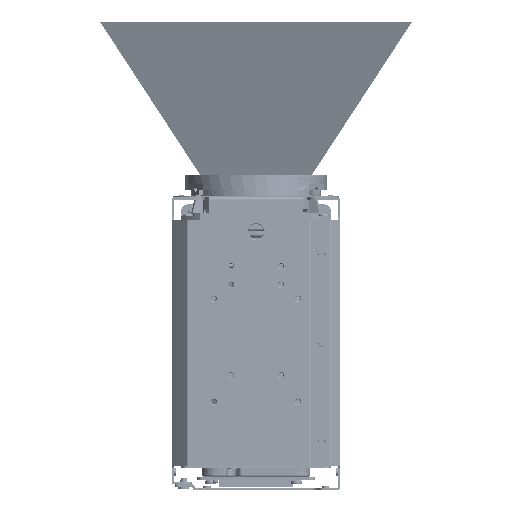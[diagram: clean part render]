
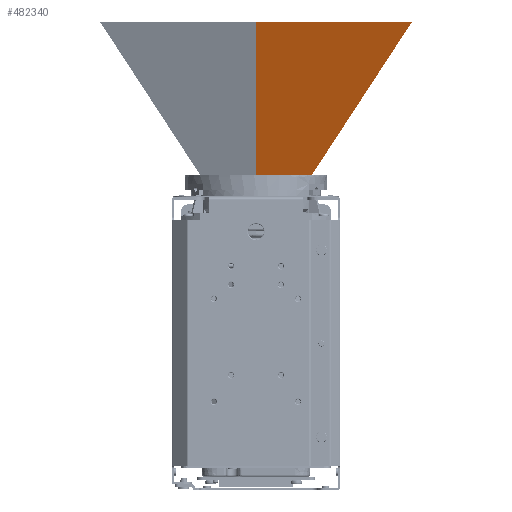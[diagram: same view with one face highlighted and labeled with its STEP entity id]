
A CAD part, front view. The second image highlights one B-rep face of the part: STEP entity #482340.
In plain terms, the highlighted planar face has unit normal (0, -0.94, -0.342).
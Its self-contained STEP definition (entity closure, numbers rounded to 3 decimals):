
#482291=DIRECTION('',(-0.523,0.291,-0.801));
#482292=VECTOR('',#482291,94.974);
#482293=CARTESIAN_POINT('',(50.,-27.664,
145.036));
#482294=LINE('',#482293,#482292);
#482295=DIRECTION('',(-1.,0.,0.));
#482296=VECTOR('',#482295,0.284);
#482297=CARTESIAN_POINT('',(0.284,0.,68.99));
#482298=LINE('',#482297,#482296);
#482299=DIRECTION('',(0.,-0.342,0.94));
#482300=VECTOR('',#482299,80.922);
#482301=CARTESIAN_POINT('',(0.,0.,68.99));
#482302=LINE('',#482301,#482300);
#482303=DIRECTION('',(1.,0.,0.));
#482304=VECTOR('',#482303,50.);
#482305=CARTESIAN_POINT('',(0.,-27.664,145.036));
#482306=LINE('',#482305,#482304);
#482315=CARTESIAN_POINT('',(0.284,0.,68.99));
#482316=CARTESIAN_POINT('',(0.,0.,68.99));
#482317=VERTEX_POINT('',#482315);
#482318=VERTEX_POINT('',#482316);
#482319=CARTESIAN_POINT('',(0.,-27.664,145.036));
#482320=VERTEX_POINT('',#482319);
#482321=CARTESIAN_POINT('',(50.,-27.664,
145.036));
#482322=VERTEX_POINT('',#482321);
#482325=CARTESIAN_POINT('',(0.,0.,68.99));
#482326=DIRECTION('',(0.,0.94,0.342));
#482327=DIRECTION('',(0.,-0.342,0.94));
#482328=AXIS2_PLACEMENT_3D('',#482325,#482326,#482327);
#482329=PLANE('',#482328);
#482331=ORIENTED_EDGE('',*,*,#482330,.T.);
#482333=ORIENTED_EDGE('',*,*,#482332,.T.);
#482335=ORIENTED_EDGE('',*,*,#482334,.T.);
#482337=ORIENTED_EDGE('',*,*,#482336,.T.);
#482338=EDGE_LOOP('',(#482331,#482333,#482335,#482337));
#482339=FACE_OUTER_BOUND('',#482338,.F.);
#482330=EDGE_CURVE('',#482322,#482317,#482294,.T.);
#482332=EDGE_CURVE('',#482317,#482318,#482298,.T.);
#482334=EDGE_CURVE('',#482318,#482320,#482302,.T.);
#482336=EDGE_CURVE('',#482320,#482322,#482306,.T.);
#482340=ADVANCED_FACE('',(#482339),#482329,.F.);
